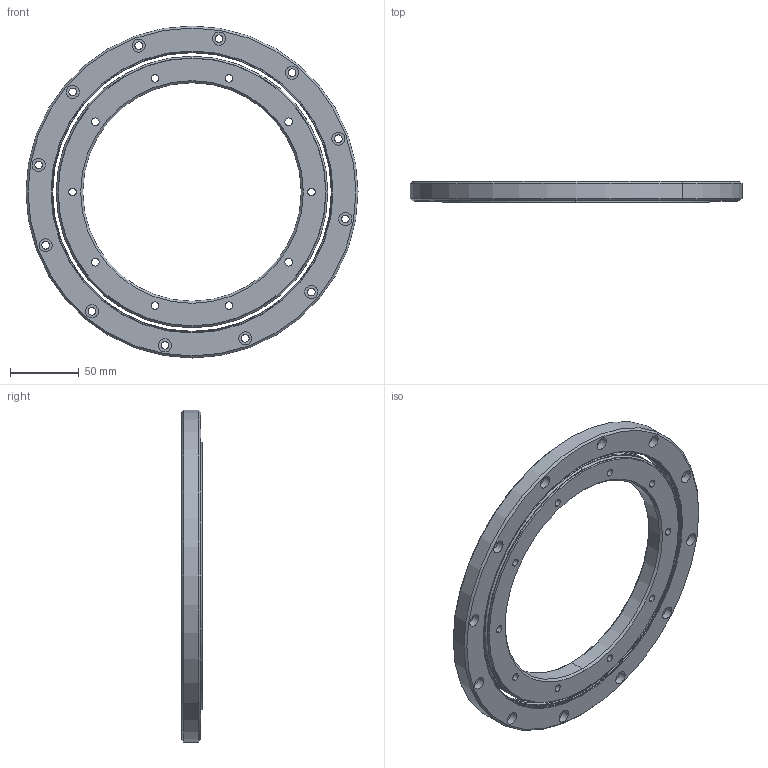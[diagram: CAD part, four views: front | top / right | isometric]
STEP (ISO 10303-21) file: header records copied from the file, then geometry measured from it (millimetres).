
FILE_DESCRIPTION (( 'STEP AP214' ), '1' );
FILE_NAME ('TTS2-159-243-15 Bearing Assembly.STEP', '2018-03-14T15:17:07', ( 'Admin' ), ( '' ), 'SwSTEP 2.0', 'SolidWorks 2018', '' );
FILE_SCHEMA (( 'AUTOMOTIVE_DESIGN' ));
Length unit declared in the file: inch
Products named in the file (3): TTS2 Outer Ring_TTS2-159-243-15; TTS2 Inner Ring_TTS2-159-243-15; TTS2-159-243-15 Bearing Assembly
Assembly tree (2 placements, depth 2):
  TTS2-159-243-15 Bearing Assembly
    TTS2 Inner Ring_TTS2-159-243-15
    TTS2 Outer Ring_TTS2-159-243-15
Bounding box: 241.3 x 15 x 241.3 mm (x, y, z)
Volume: 313792.6 mm3; surface area: 87523.6 mm2
Topology: 2 solids, 2 shells, 190 faces, 424 edges, 262 vertices
Faces by surface type: cylinder 112, cone 28, plane 28, torus 22
Entity records: 5576 total; most frequent: DIRECTION 1098, CARTESIAN_POINT 881, ORIENTED_EDGE 848, AXIS2_PLACEMENT_3D 479, EDGE_CURVE 424, CIRCLE 284, VERTEX_POINT 262, EDGE_LOOP 262
